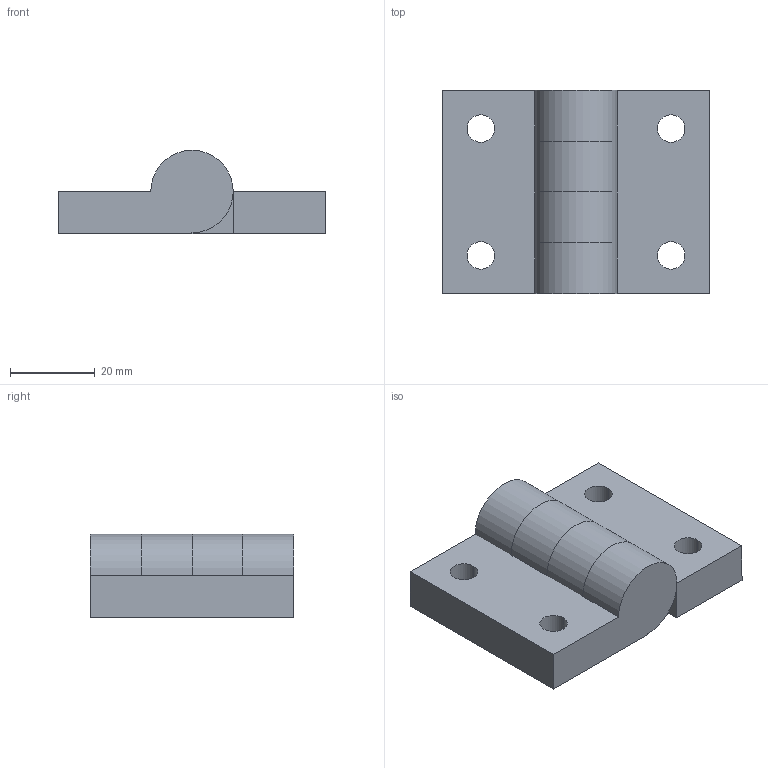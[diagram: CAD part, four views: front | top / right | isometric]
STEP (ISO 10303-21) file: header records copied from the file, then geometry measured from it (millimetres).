
FILE_DESCRIPTION (( 'STEP AP203' ), '1' );
FILE_NAME ('345MN08.STEP', '2018-07-03T14:03:21', ( '' ), ( '' ), 'SwSTEP 2.0', 'SolidWorks 2014', '' );
FILE_SCHEMA (( 'CONFIG_CONTROL_DESIGN' ));
Length unit declared in the file: millimetre
Products named in the file (1): 345MN08
Bounding box: 63 x 48 x 19.75 mm (x, y, z)
Volume: 34984 mm3; surface area: 12294.6 mm2
Topology: 2 solids, 2 shells, 36 faces, 90 edges, 58 vertices
Faces by surface type: plane 24, cylinder 12
Entity records: 1161 total; most frequent: DIRECTION 188, CARTESIAN_POINT 185, ORIENTED_EDGE 180, EDGE_CURVE 90, VECTOR 66, LINE 66, AXIS2_PLACEMENT_3D 61, VERTEX_POINT 58
